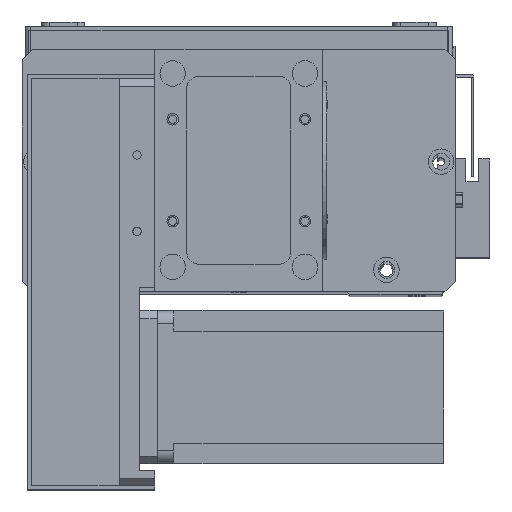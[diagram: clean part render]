
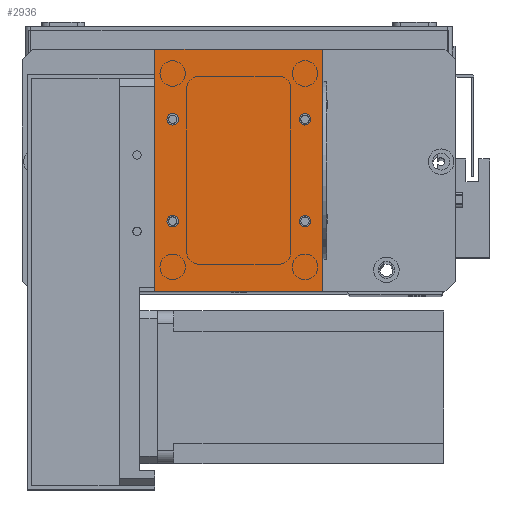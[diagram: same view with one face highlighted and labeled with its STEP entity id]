
A CAD part, top view. The second image highlights one B-rep face of the part: STEP entity #2936.
In plain terms, the highlighted planar face has unit normal (0, 0, 1).
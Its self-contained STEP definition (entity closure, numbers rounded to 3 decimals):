
#264 = DIRECTION ( 'NONE',  ( 1., 0., 0. ) ) ;
#1091 = EDGE_CURVE ( 'NONE', #29622, #21183, #15578, .T. ) ;
#1166 = CARTESIAN_POINT ( 'NONE',  ( 7., 67.5, 2. ) ) ;
#1731 = VERTEX_POINT ( 'NONE', #28883 ) ;
#2005 = VECTOR ( 'NONE', #30379, 1000. ) ;
#2116 = ORIENTED_EDGE ( 'NONE', *, *, #3911, .F. ) ;
#2165 = ORIENTED_EDGE ( 'NONE', *, *, #26813, .F. ) ;
#2367 = DIRECTION ( 'NONE',  ( 0., 0., 1. ) ) ;
#2470 = EDGE_CURVE ( 'NONE', #21183, #6220, #29962, .T. ) ;
#2525 = CARTESIAN_POINT ( 'NONE',  ( 7., 27.5, 2. ) ) ;
#2936 = ADVANCED_FACE ( 'NONE', ( #29930, #4302, #16364, #9946, #3545 ), #12745, .F. ) ;
#3181 = VERTEX_POINT ( 'NONE', #6506 ) ;
#3191 = VERTEX_POINT ( 'NONE', #11342 ) ;
#3244 = ORIENTED_EDGE ( 'NONE', *, *, #18010, .F. ) ;
#3545 = FACE_OUTER_BOUND ( 'NONE', #10487, .T. ) ;
#3583 = DIRECTION ( 'NONE',  ( 1., 0., 0. ) ) ;
#3616 = CARTESIAN_POINT ( 'NONE',  ( 0., 0., 2. ) ) ;
#3911 = EDGE_CURVE ( 'NONE', #3191, #16905, #26854, .T. ) ;
#4302 = FACE_BOUND ( 'NONE', #15351, .T. ) ;
#4934 = DIRECTION ( 'NONE',  ( 1., 0., 0. ) ) ;
#5260 = DIRECTION ( 'NONE',  ( 0., 0., 1. ) ) ;
#6167 = AXIS2_PLACEMENT_3D ( 'NONE', #2525, #19337, #4934 ) ;
#6220 = VERTEX_POINT ( 'NONE', #20852 ) ;
#6260 = CARTESIAN_POINT ( 'NONE',  ( 59., 27.5, 2. ) ) ;
#6280 = EDGE_CURVE ( 'NONE', #27267, #3181, #8983, .T. ) ;
#6290 = EDGE_CURVE ( 'NONE', #14332, #29622, #8662, .T. ) ;
#6506 = CARTESIAN_POINT ( 'NONE',  ( 61.25, 27.5, 2. ) ) ;
#6613 = ORIENTED_EDGE ( 'NONE', *, *, #6290, .T. ) ;
#6674 = EDGE_CURVE ( 'NONE', #26022, #9985, #6745, .T. ) ;
#6745 = CIRCLE ( 'NONE', #10626, 2.25 ) ;
#7059 = CARTESIAN_POINT ( 'NONE',  ( 0., 95., 2. ) ) ;
#7287 = CARTESIAN_POINT ( 'NONE',  ( 56.75, 67.5, 2. ) ) ;
#7704 = EDGE_LOOP ( 'NONE', ( #2116, #20229 ) ) ;
#8662 = LINE ( 'NONE', #7059, #21444 ) ;
#8691 = DIRECTION ( 'NONE',  ( 1., 0., 0. ) ) ;
#8983 = CIRCLE ( 'NONE', #27967, 2.25 ) ;
#9420 = CARTESIAN_POINT ( 'NONE',  ( 7., 27.5, 2. ) ) ;
#9740 = CARTESIAN_POINT ( 'NONE',  ( 4.75, 27.5, 2. ) ) ;
#9946 = FACE_BOUND ( 'NONE', #19252, .T. ) ;
#9985 = VERTEX_POINT ( 'NONE', #9740 ) ;
#10294 = CARTESIAN_POINT ( 'NONE',  ( 66., 95., 2. ) ) ;
#10487 = EDGE_LOOP ( 'NONE', ( #22325, #28395, #15688, #6613 ) ) ;
#10626 = AXIS2_PLACEMENT_3D ( 'NONE', #9420, #26304, #11855 ) ;
#10773 = EDGE_CURVE ( 'NONE', #6220, #14332, #25709, .T. ) ;
#11342 = CARTESIAN_POINT ( 'NONE',  ( 9.25, 67.5, 2. ) ) ;
#11855 = DIRECTION ( 'NONE',  ( 1., 0., 0. ) ) ;
#12090 = CARTESIAN_POINT ( 'NONE',  ( 9.25, 27.5, 2. ) ) ;
#12745 = PLANE ( 'NONE',  #28895 ) ;
#12846 = DIRECTION ( 'NONE',  ( 0., 0., -1. ) ) ;
#12895 = VECTOR ( 'NONE', #28567, 1000. ) ;
#13247 = AXIS2_PLACEMENT_3D ( 'NONE', #29114, #14680, #264 ) ;
#14031 = CARTESIAN_POINT ( 'NONE',  ( 59., 27.5, 2. ) ) ;
#14118 = ORIENTED_EDGE ( 'NONE', *, *, #6674, .F. ) ;
#14275 = CIRCLE ( 'NONE', #19750, 2.25 ) ;
#14332 = VERTEX_POINT ( 'NONE', #10294 ) ;
#14680 = DIRECTION ( 'NONE',  ( 0., 0., 1. ) ) ;
#14835 = EDGE_CURVE ( 'NONE', #20116, #1731, #24396, .T. ) ;
#15185 = AXIS2_PLACEMENT_3D ( 'NONE', #1166, #17999, #3583 ) ;
#15198 = EDGE_LOOP ( 'NONE', ( #3244, #17405 ) ) ;
#15351 = EDGE_LOOP ( 'NONE', ( #16302, #22093 ) ) ;
#15578 = LINE ( 'NONE', #30060, #2005 ) ;
#15688 = ORIENTED_EDGE ( 'NONE', *, *, #10773, .T. ) ;
#16002 = CARTESIAN_POINT ( 'NONE',  ( 0., 0., 2. ) ) ;
#16302 = ORIENTED_EDGE ( 'NONE', *, *, #16358, .F. ) ;
#16358 = EDGE_CURVE ( 'NONE', #1731, #20116, #16600, .T. ) ;
#16364 = FACE_BOUND ( 'NONE', #15198, .T. ) ;
#16450 = DIRECTION ( 'NONE',  ( 1., 0., 0. ) ) ;
#16600 = CIRCLE ( 'NONE', #26388, 2.25 ) ;
#16803 = CARTESIAN_POINT ( 'NONE',  ( 59., 67.5, 2. ) ) ;
#16905 = VERTEX_POINT ( 'NONE', #26250 ) ;
#17405 = ORIENTED_EDGE ( 'NONE', *, *, #6280, .F. ) ;
#17999 = DIRECTION ( 'NONE',  ( 0., 0., 1. ) ) ;
#18010 = EDGE_CURVE ( 'NONE', #3181, #27267, #14275, .T. ) ;
#18036 = DIRECTION ( 'NONE',  ( 1., 0., 0. ) ) ;
#18873 = CARTESIAN_POINT ( 'NONE',  ( 66., 0., 2. ) ) ;
#19198 = DIRECTION ( 'NONE',  ( 1., 0., 0. ) ) ;
#19252 = EDGE_LOOP ( 'NONE', ( #14118, #2165 ) ) ;
#19337 = DIRECTION ( 'NONE',  ( 0., 0., 1. ) ) ;
#19660 = CARTESIAN_POINT ( 'NONE',  ( 7., 67.5, 2. ) ) ;
#19750 = AXIS2_PLACEMENT_3D ( 'NONE', #6260, #23121, #8691 ) ;
#20116 = VERTEX_POINT ( 'NONE', #7287 ) ;
#20229 = ORIENTED_EDGE ( 'NONE', *, *, #30469, .F. ) ;
#20559 = CARTESIAN_POINT ( 'NONE',  ( 0., 95., 2. ) ) ;
#20852 = CARTESIAN_POINT ( 'NONE',  ( 66., 0., 2. ) ) ;
#21183 = VERTEX_POINT ( 'NONE', #16002 ) ;
#21444 = VECTOR ( 'NONE', #23932, 1000. ) ;
#22093 = ORIENTED_EDGE ( 'NONE', *, *, #14835, .F. ) ;
#22098 = DIRECTION ( 'NONE',  ( 1., 0., 0. ) ) ;
#22325 = ORIENTED_EDGE ( 'NONE', *, *, #1091, .T. ) ;
#23024 = CIRCLE ( 'NONE', #6167, 2.25 ) ;
#23121 = DIRECTION ( 'NONE',  ( 0., 0., 1. ) ) ;
#23552 = VECTOR ( 'NONE', #18036, 1000. ) ;
#23932 = DIRECTION ( 'NONE',  ( -1., 0., 0. ) ) ;
#24396 = CIRCLE ( 'NONE', #13247, 2.25 ) ;
#25709 = LINE ( 'NONE', #18873, #12895 ) ;
#26022 = VERTEX_POINT ( 'NONE', #12090 ) ;
#26086 = CARTESIAN_POINT ( 'NONE',  ( 56.75, 27.5, 2. ) ) ;
#26250 = CARTESIAN_POINT ( 'NONE',  ( 4.75, 67.5, 2. ) ) ;
#26304 = DIRECTION ( 'NONE',  ( 0., 0., 1. ) ) ;
#26388 = AXIS2_PLACEMENT_3D ( 'NONE', #16803, #2367, #19198 ) ;
#26813 = EDGE_CURVE ( 'NONE', #9985, #26022, #23024, .T. ) ;
#26854 = CIRCLE ( 'NONE', #15185, 2.25 ) ;
#27256 = CIRCLE ( 'NONE', #29046, 2.25 ) ;
#27267 = VERTEX_POINT ( 'NONE', #26086 ) ;
#27289 = CARTESIAN_POINT ( 'NONE',  ( 0., 0., 2. ) ) ;
#27967 = AXIS2_PLACEMENT_3D ( 'NONE', #14031, #30871, #16450 ) ;
#28395 = ORIENTED_EDGE ( 'NONE', *, *, #2470, .T. ) ;
#28567 = DIRECTION ( 'NONE',  ( 0., 1., 0. ) ) ;
#28883 = CARTESIAN_POINT ( 'NONE',  ( 61.25, 67.5, 2. ) ) ;
#28895 = AXIS2_PLACEMENT_3D ( 'NONE', #27289, #12846, #29705 ) ;
#29046 = AXIS2_PLACEMENT_3D ( 'NONE', #19660, #5260, #22098 ) ;
#29114 = CARTESIAN_POINT ( 'NONE',  ( 59., 67.5, 2. ) ) ;
#29622 = VERTEX_POINT ( 'NONE', #20559 ) ;
#29705 = DIRECTION ( 'NONE',  ( -1., 0., 0. ) ) ;
#29930 = FACE_BOUND ( 'NONE', #7704, .T. ) ;
#29962 = LINE ( 'NONE', #3616, #23552 ) ;
#30060 = CARTESIAN_POINT ( 'NONE',  ( 0., 0., 2. ) ) ;
#30379 = DIRECTION ( 'NONE',  ( 0., -1., 0. ) ) ;
#30469 = EDGE_CURVE ( 'NONE', #16905, #3191, #27256, .T. ) ;
#30871 = DIRECTION ( 'NONE',  ( 0., 0., 1. ) ) ;
